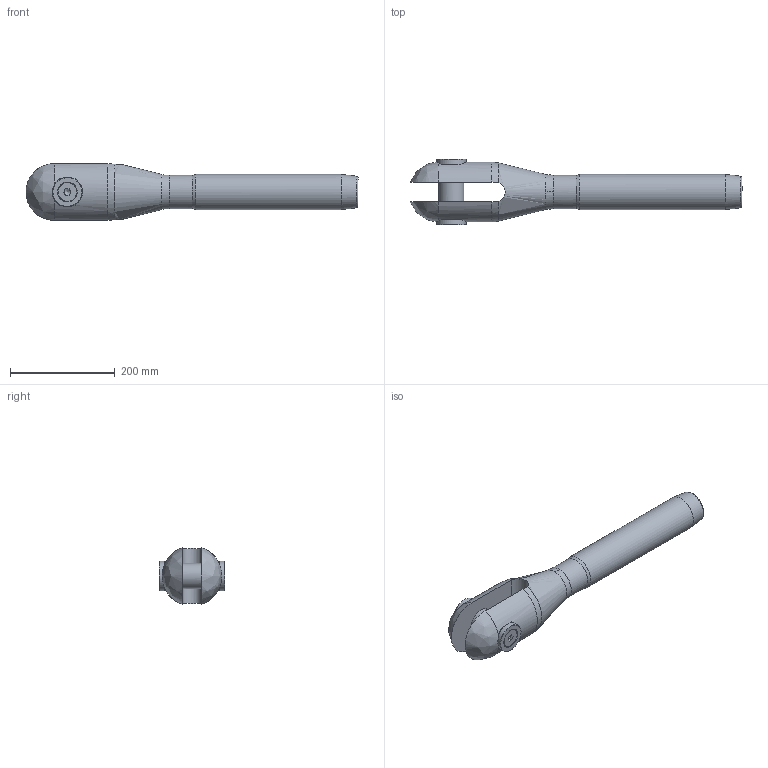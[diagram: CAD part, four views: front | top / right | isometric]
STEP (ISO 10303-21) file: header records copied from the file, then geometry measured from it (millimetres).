
FILE_DESCRIPTION(/* description */ (''),/* implementation_level */ '2;1');
FILE_NAME(/* name */ 'MAC 34_1,4418',/* time_stamp */ '2023-05-23T16:54:57+02:00',/* author */ (''),/* organization */ (''),/* preprocessor_version */ 'ST-DEVELOPER v16.5',/* originating_system */ 'Rhino 7.22',/* authorisation */ '');
FILE_SCHEMA (('CONFIG_CONTROL_DESIGN'));
Length unit declared in the file: millimetre
Products named in the file (1): Document
Bounding box: 632.84 x 125.45 x 107.83 mm (x, y, z)
Volume: 2803921.8 mm3; surface area: 236851.4 mm2
Topology: 6 solids, 6 shells, 75 faces, 210 edges, 145 vertices
Faces by surface type: plane 29, bspline 24, cylinder 22
Full cylindrical faces by diameter (mm): 17.294 x2, 20 x2, 21 x2, 35.4 x2, 48 x1, 50 x2, 56 x2, 63.5 x1, 66.8 x1
Entity records: 3170 total; most frequent: CARTESIAN_POINT 1823, ORIENTED_EDGE 412, EDGE_CURVE 206, VERTEX_POINT 145, EDGE_LOOP 85, B_SPLINE_CURVE_WITH_KNOTS 84, ADVANCED_FACE 75, FACE_OUTER_BOUND 75
